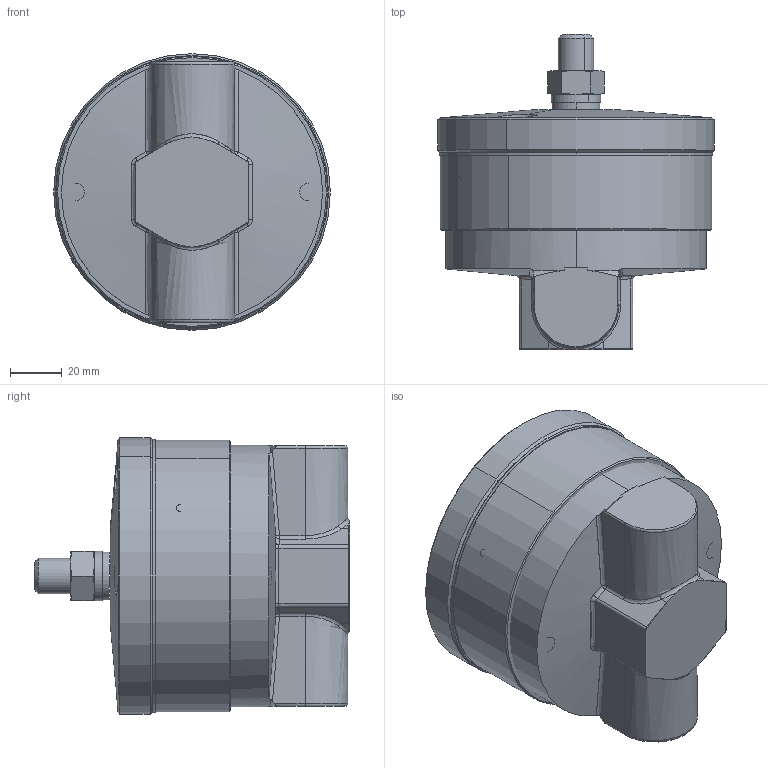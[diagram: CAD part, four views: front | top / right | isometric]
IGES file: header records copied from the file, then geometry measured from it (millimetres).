
Start section:  PTC IGES file: 234259-en-d.igs
Global section: file name: 234259-en-d.igs; native system: Creo Parametric by PTC Inc.; preprocessor: 2019030; author: qusrh3; organization: Unknown; date: 20191231.155836; units: inch
Bounding box: 106.9 x 121.76 x 106.9 mm (x, y, z)
Surface area: 66985.4 mm2 (no closed solid volume)
Topology: 0 solids, 0 shells, 152 faces, 709 edges, 709 vertices
Faces by surface type: revolution 99, bspline 53
